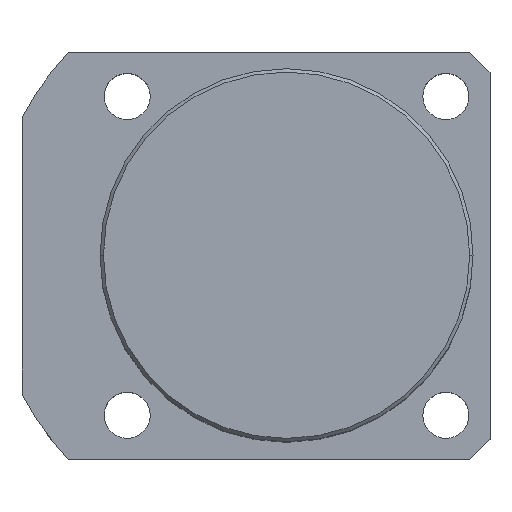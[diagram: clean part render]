
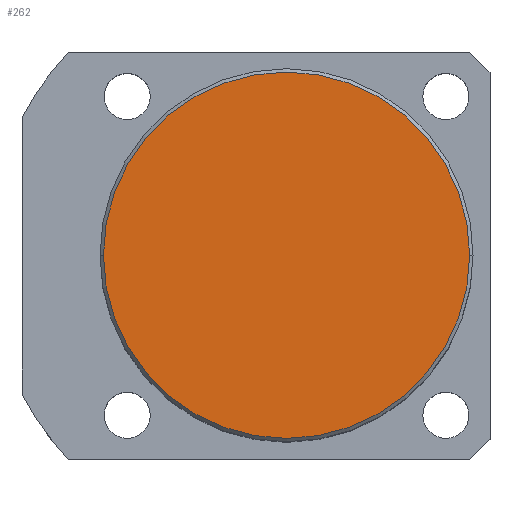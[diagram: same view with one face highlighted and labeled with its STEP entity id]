
A CAD part, top view. The second image highlights one B-rep face of the part: STEP entity #262.
In plain terms, the highlighted planar face has unit normal (0, 0, 1).
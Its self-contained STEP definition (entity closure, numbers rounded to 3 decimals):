
#86 = DIRECTION ( 'NONE',  ( 0., 0., 1. ) ) ;
#262 = ADVANCED_FACE ( 'NONE', ( #378 ), #1142, .T. ) ;
#282 = CARTESIAN_POINT ( 'NONE',  ( 0., 0., 65. ) ) ;
#291 = ORIENTED_EDGE ( 'NONE', *, *, #1304, .T. ) ;
#304 = DIRECTION ( 'NONE',  ( 1., 0., 0. ) ) ;
#364 = DIRECTION ( 'NONE',  ( 1., 0., 0. ) ) ;
#378 = FACE_OUTER_BOUND ( 'NONE', #789, .T. ) ;
#492 = AXIS2_PLACEMENT_3D ( 'NONE', #1773, #86, #638 ) ;
#613 = CARTESIAN_POINT ( 'NONE',  ( -27., 0., 65. ) ) ;
#614 = CARTESIAN_POINT ( 'NONE',  ( 27., 0., 65. ) ) ;
#626 = VERTEX_POINT ( 'NONE', #614 ) ;
#638 = DIRECTION ( 'NONE',  ( 1., 0., 0. ) ) ;
#714 = EDGE_CURVE ( 'NONE', #1243, #626, #1636, .T. ) ;
#789 = EDGE_LOOP ( 'NONE', ( #1675, #291 ) ) ;
#800 = DIRECTION ( 'NONE',  ( 0., 0., 1. ) ) ;
#860 = DIRECTION ( 'NONE',  ( 0., 0., 1. ) ) ;
#884 = CIRCLE ( 'NONE', #1214, 27. ) ;
#1142 = PLANE ( 'NONE',  #1433 ) ;
#1200 = CARTESIAN_POINT ( 'NONE',  ( 0., 0., 65. ) ) ;
#1214 = AXIS2_PLACEMENT_3D ( 'NONE', #1200, #800, #364 ) ;
#1243 = VERTEX_POINT ( 'NONE', #613 ) ;
#1304 = EDGE_CURVE ( 'NONE', #626, #1243, #884, .T. ) ;
#1433 = AXIS2_PLACEMENT_3D ( 'NONE', #282, #860, #304 ) ;
#1636 = CIRCLE ( 'NONE', #492, 27. ) ;
#1675 = ORIENTED_EDGE ( 'NONE', *, *, #714, .T. ) ;
#1773 = CARTESIAN_POINT ( 'NONE',  ( 0., 0., 65. ) ) ;
